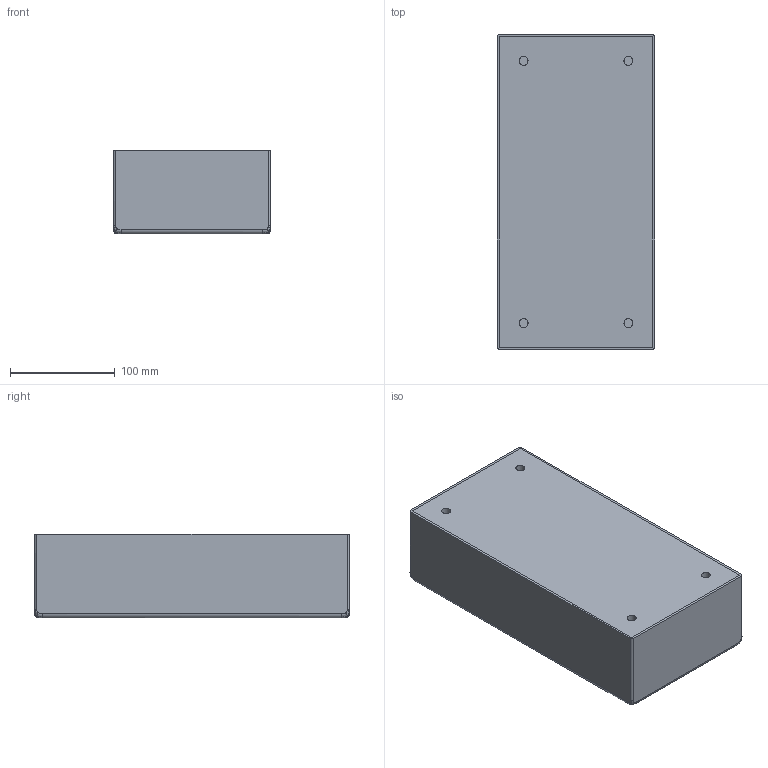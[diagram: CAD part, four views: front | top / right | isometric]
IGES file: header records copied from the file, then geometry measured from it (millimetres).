
Global section: file name: SMB-15-30; native system: unknown; preprocessor: unknown; author: unknown; organization: unknown; date: 20230705.141436; units: millimetre
Bounding box: 150 x 300 x 80 mm (x, y, z)
Volume: 742351.9 mm3; surface area: 326199 mm2
Topology: 2 solids, 2 shells, 57 faces, 148 edges, 96 vertices
Faces by surface type: bspline 57
